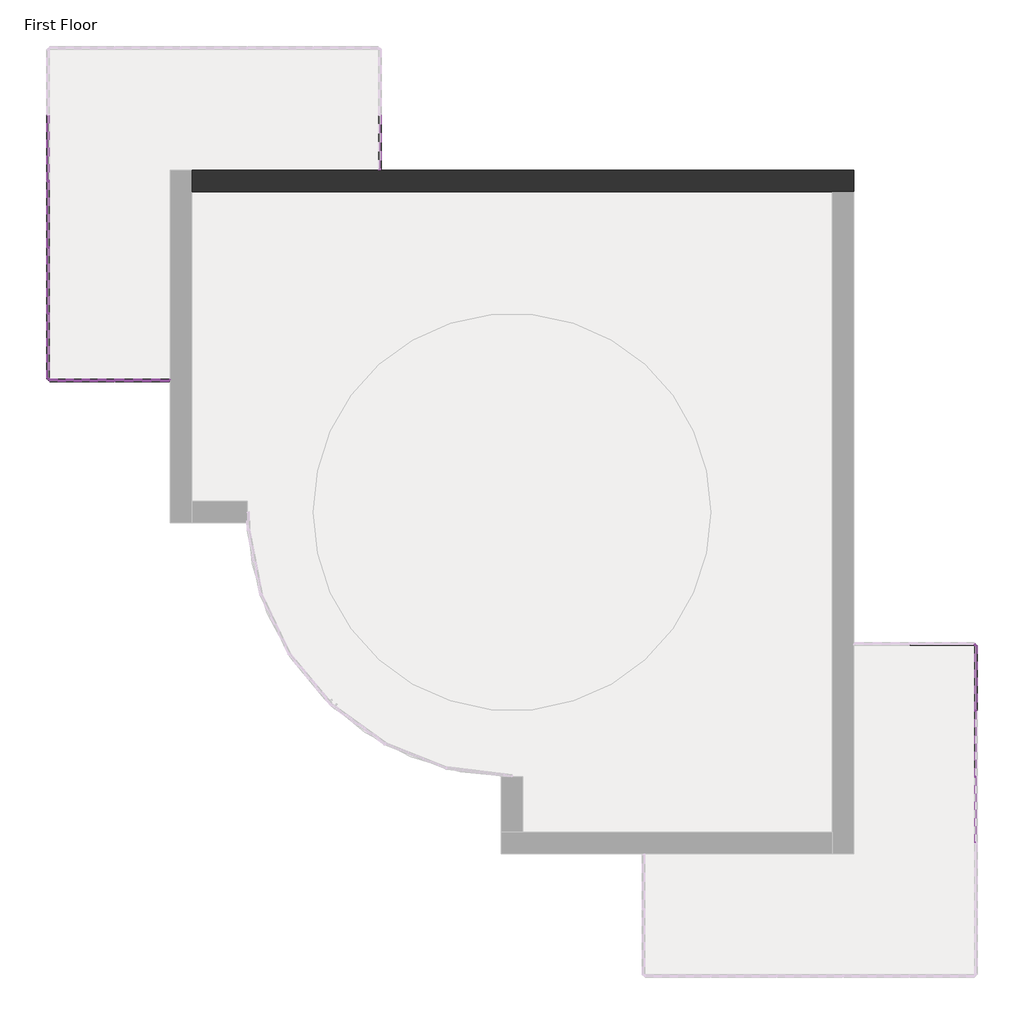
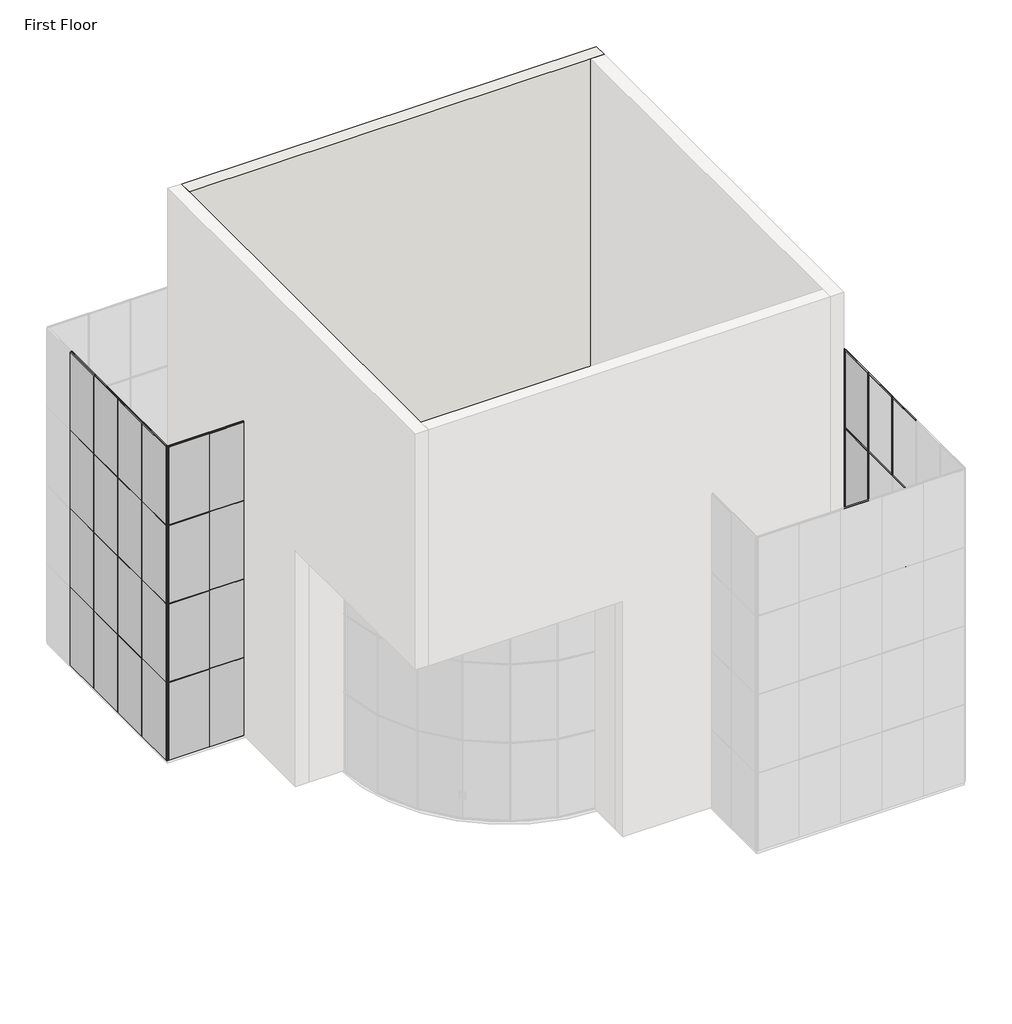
# One storey, part 3 of 4: 91 members, 32 plates, 1 wall.
"""IFC4 building model written with IfcOpenShell, lengths in millimetres."""

from ifc_helpers import new_model, si_unit, origin, place, context, project, spatial, faceted_brep, transform, mapped, element, save
from components import member_40ce1a5c, member_5e617a80, member_0d8d9af5, member_74941792, member_cbdb9076, member_7e523723, member_9fd3d903, member_6604d1e0, member_be0b070d, system_panel_glazed_9b7d687a, system_panel_glazed_3ccd4ad1, system_panel_glazed_9a901b4a, system_panel_glazed_ee91e337, system_panel_glazed_2d5e1d3d, system_panel_glazed_37964ea6, system_panel_glazed_a669fc9f, system_panel_glazed_51c864c8

model = new_model("IFC4")

# Units and contexts
model_context = context("Model", 3, world=origin())
ifc_project = project(units=[si_unit("LENGTHUNIT", "METRE", prefix="MILLI")], contexts=[model_context])

# Site, building, storey
site = spatial("IfcSite", under=ifc_project)
building = spatial("IfcBuilding", under=site)
storey = spatial("IfcBuildingStorey", under=building, Name="First Floor", Elevation=0.0)

# Members
placement = place(None, origin())
member_shape = member_40ce1a5c(model_context)
element("IfcMember", 1, ObjectType="Rectangular Mullion : 1\" Square", at=placement, inside=storey, context=model_context, shape_type="MappedRepresentation", body=[
    mapped(member_shape, transform((-10360.9806157, 2362.0139224, 6096.0), x_axis=(0.0, 0.0, 1.0), y_axis=(0.0, -1.0, 0.0), z_axis=(1.0, 0.0, 0.0))),
])
element("IfcMember", 2, ObjectType="Rectangular Mullion : 1\" Square", at=placement, inside=storey, context=model_context, shape_type="MappedRepresentation", body=[
    mapped(member_shape, transform((-10360.9806157, 2362.0139224, 9144.0), x_axis=(0.0, 0.0, 1.0), y_axis=(0.0, -1.0, 0.0), z_axis=(1.0, 0.0, 0.0))),
])
element("IfcMember", 3, ObjectType="Rectangular Mullion : 1\" Square", at=placement, inside=storey, context=model_context, shape_type="MappedRepresentation", body=[
    mapped(member_shape, transform((-10360.9806157, 2362.0139224, 3048.0), x_axis=(0.0, 0.0, 1.0), y_axis=(0.0, -1.0, 0.0), z_axis=(1.0, 0.0, 0.0))),
])
member_2_shape = member_5e617a80(model_context)
element("IfcMember", 4, ObjectType="Rectangular Mullion : 1\" Square", at=placement, inside=storey, context=model_context, shape_type="MappedRepresentation", body=[
    mapped(member_2_shape, transform((-11627.8056157, 2362.0139224, 9144.0), x_axis=(0.0, 0.0, 1.0), y_axis=(0.0, -1.0, 0.0), z_axis=(1.0, 0.0, 0.0))),
])
element("IfcMember", 5, ObjectType="Rectangular Mullion : 1\" Square", at=placement, inside=storey, context=model_context, shape_type="MappedRepresentation", body=[
    mapped(member_2_shape, transform((-11627.8056157, 2362.0139224, 6096.0), x_axis=(0.0, 0.0, 1.0), y_axis=(0.0, -1.0, 0.0), z_axis=(1.0, 0.0, 0.0))),
])
element("IfcMember", 6, ObjectType="Rectangular Mullion : 1\" Square", at=placement, inside=storey, context=model_context, shape_type="MappedRepresentation", body=[
    mapped(member_2_shape, transform((-11627.8056157, 2362.0139224, 3048.0), x_axis=(0.0, 0.0, 1.0), y_axis=(0.0, -1.0, 0.0), z_axis=(1.0, 0.0, 0.0))),
])
element("IfcMember", 7, ObjectType="Rectangular Mullion : 1\" Square", at=placement, inside=storey, context=model_context, shape_type="MappedRepresentation", body=[
    mapped(member_2_shape, transform((-13139.1056157, 2387.4139224, 9144.0), x_axis=(0.0, 0.0, 1.0), y_axis=(-1.0, 0.0, 0.0), z_axis=(0.0, -1.0, 0.0))),
])
element("IfcMember", 8, ObjectType="Rectangular Mullion : 1\" Square", at=placement, inside=storey, context=model_context, shape_type="MappedRepresentation", body=[
    mapped(member_2_shape, transform((-13139.1056157, 2387.4139224, 3048.0), x_axis=(0.0, 0.0, 1.0), y_axis=(-1.0, 0.0, 0.0), z_axis=(0.0, -1.0, 0.0))),
])
element("IfcMember", 9, ObjectType="Rectangular Mullion : 1\" Square", at=placement, inside=storey, context=model_context, shape_type="MappedRepresentation", body=[
    mapped(member_2_shape, transform((-13139.1056157, 2387.4139224, 6096.0), x_axis=(0.0, 0.0, 1.0), y_axis=(-1.0, 0.0, 0.0), z_axis=(0.0, -1.0, 0.0))),
])
element("IfcMember", 10, ObjectType="Rectangular Mullion : 1\" Square", at=placement, inside=storey, context=model_context, shape_type="MappedRepresentation", body=[
    mapped(member_2_shape, transform((8196.8943843, -3759.3860776, 3048.0), x_axis=(0.0, 0.0, 1.0), y_axis=(1.0, 0.0, 0.0), z_axis=(0.0, 1.0, 0.0))),
])
element("IfcMember", 11, ObjectType="Rectangular Mullion : 1\" Square", at=placement, inside=storey, context=model_context, shape_type="MappedRepresentation", body=[
    mapped(member_2_shape, transform((8196.8943843, -3759.3860776, 6096.0), x_axis=(0.0, 0.0, 1.0), y_axis=(1.0, 0.0, 0.0), z_axis=(0.0, 1.0, 0.0))),
])
element("IfcMember", 12, ObjectType="Rectangular Mullion : 1\" Square", at=placement, inside=storey, context=model_context, shape_type="MappedRepresentation", body=[
    mapped(member_2_shape, transform((8196.8943843, -3759.3860776, 9144.0), x_axis=(0.0, 0.0, 1.0), y_axis=(1.0, 0.0, 0.0), z_axis=(0.0, 1.0, 0.0))),
])
member_3_shape = member_0d8d9af5(model_context)
element("IfcMember", 13, ObjectType="Rectangular Mullion : 1\" Square", at=placement, inside=storey, context=model_context, shape_type="MappedRepresentation", body=[
    mapped(member_3_shape, transform((-11602.4056157, 2362.0139224, 0.0), x_axis=(0.0, 0.0, -1.0), y_axis=(0.0, -1.0, 0.0), z_axis=(-1.0, 0.0, 0.0))),
])
member_4_shape = member_74941792(model_context)
element("IfcMember", 14, ObjectType="Rectangular Mullion : 1\" Square", at=placement, inside=storey, context=model_context, shape_type="MappedRepresentation", body=[
    mapped(member_4_shape, transform((-11627.8056157, 2362.0139224, 12192.0), x_axis=(0.0, 0.0, 1.0), y_axis=(0.0, -1.0, 0.0), z_axis=(1.0, 0.0, 0.0))),
])
element("IfcMember", 15, ObjectType="Rectangular Mullion : 1\" Square", at=placement, inside=storey, context=model_context, shape_type="MappedRepresentation", body=[
    mapped(member_4_shape, transform((-13139.1056157, 2387.4139224, 12192.0), x_axis=(0.0, 0.0, 1.0), y_axis=(-1.0, 0.0, 0.0), z_axis=(0.0, -1.0, 0.0))),
])
element("IfcMember", 16, ObjectType="Rectangular Mullion : 1\" Square", at=placement, inside=storey, context=model_context, shape_type="MappedRepresentation", body=[
    mapped(member_4_shape, transform((8196.8943843, -3759.3860776, 12192.0), x_axis=(0.0, 0.0, 1.0), y_axis=(1.0, 0.0, 0.0), z_axis=(0.0, 1.0, 0.0))),
])
member_5_shape = member_cbdb9076(model_context)
element("IfcMember", 17, ObjectType="Rectangular Mullion : 1\" Square", at=placement, inside=storey, context=model_context, shape_type="MappedRepresentation", body=[
    mapped(member_5_shape, transform((-11615.1056157, 2362.0139224, 3048.0), x_axis=(1.0, 0.0, 0.0), y_axis=(0.0, -1.0, 0.0), z_axis=(0.0, 0.0, -1.0))),
])
element("IfcMember", 18, ObjectType="Rectangular Mullion : 1\" Square", at=placement, inside=storey, context=model_context, shape_type="MappedRepresentation", body=[
    mapped(member_5_shape, transform((-11615.1056157, 2362.0139224, 6096.0), x_axis=(1.0, 0.0, 0.0), y_axis=(0.0, -1.0, 0.0), z_axis=(0.0, 0.0, -1.0))),
])
element("IfcMember", 19, ObjectType="Rectangular Mullion : 1\" Square", at=placement, inside=storey, context=model_context, shape_type="MappedRepresentation", body=[
    mapped(member_5_shape, transform((-13139.1056157, 6934.0139224, 3048.0), x_axis=(0.0, -1.0, 0.0), y_axis=(-1.0, 0.0, 0.0), z_axis=(0.0, 0.0, -1.0))),
])
element("IfcMember", 20, ObjectType="Rectangular Mullion : 1\" Square", at=placement, inside=storey, context=model_context, shape_type="MappedRepresentation", body=[
    mapped(member_5_shape, transform((-13139.1056157, 6934.0139224, 6096.0), x_axis=(0.0, -1.0, 0.0), y_axis=(-1.0, 0.0, 0.0), z_axis=(0.0, 0.0, -1.0))),
])
element("IfcMember", 21, ObjectType="Rectangular Mullion : 1\" Square", at=placement, inside=storey, context=model_context, shape_type="MappedRepresentation", body=[
    mapped(member_5_shape, transform((-13139.1056157, 5410.0139224, 3048.0), x_axis=(0.0, -1.0, 0.0), y_axis=(-1.0, 0.0, 0.0), z_axis=(0.0, 0.0, -1.0))),
])
element("IfcMember", 22, ObjectType="Rectangular Mullion : 1\" Square", at=placement, inside=storey, context=model_context, shape_type="MappedRepresentation", body=[
    mapped(member_5_shape, transform((-13139.1056157, 5410.0139224, 6096.0), x_axis=(0.0, -1.0, 0.0), y_axis=(-1.0, 0.0, 0.0), z_axis=(0.0, 0.0, -1.0))),
])
element("IfcMember", 23, ObjectType="Rectangular Mullion : 1\" Square", at=placement, inside=storey, context=model_context, shape_type="MappedRepresentation", body=[
    mapped(member_5_shape, transform((-13139.1056157, 3886.0139224, 3048.0), x_axis=(0.0, -1.0, 0.0), y_axis=(-1.0, 0.0, 0.0), z_axis=(0.0, 0.0, -1.0))),
])
element("IfcMember", 24, ObjectType="Rectangular Mullion : 1\" Square", at=placement, inside=storey, context=model_context, shape_type="MappedRepresentation", body=[
    mapped(member_5_shape, transform((-13139.1056157, 3886.0139224, 6096.0), x_axis=(0.0, -1.0, 0.0), y_axis=(-1.0, 0.0, 0.0), z_axis=(0.0, 0.0, -1.0))),
])
element("IfcMember", 25, ObjectType="Rectangular Mullion : 1\" Square", at=placement, inside=storey, context=model_context, shape_type="MappedRepresentation", body=[
    mapped(member_5_shape, transform((8196.8943843, -5257.9860776, 3048.0), x_axis=(0.0, 1.0, 0.0), y_axis=(1.0, 0.0, 0.0), z_axis=(0.0, 0.0, -1.0))),
])
element("IfcMember", 26, ObjectType="Rectangular Mullion : 1\" Square", at=placement, inside=storey, context=model_context, shape_type="MappedRepresentation", body=[
    mapped(member_5_shape, transform((8196.8943843, -5257.9860776, 6096.0), x_axis=(0.0, 1.0, 0.0), y_axis=(1.0, 0.0, 0.0), z_axis=(0.0, 0.0, -1.0))),
])
element("IfcMember", 27, ObjectType="Rectangular Mullion : 1\" Square", at=placement, inside=storey, context=model_context, shape_type="MappedRepresentation", body=[
    mapped(member_5_shape, transform((-11615.1056157, 2362.0139224, 9144.0), x_axis=(1.0, 0.0, 0.0), y_axis=(0.0, -1.0, 0.0), z_axis=(0.0, 0.0, -1.0))),
])
element("IfcMember", 28, ObjectType="Rectangular Mullion : 1\" Square", at=placement, inside=storey, context=model_context, shape_type="MappedRepresentation", body=[
    mapped(member_5_shape, transform((-13139.1056157, 6934.0139224, 9144.0), x_axis=(0.0, -1.0, 0.0), y_axis=(-1.0, 0.0, 0.0), z_axis=(0.0, 0.0, -1.0))),
])
element("IfcMember", 29, ObjectType="Rectangular Mullion : 1\" Square", at=placement, inside=storey, context=model_context, shape_type="MappedRepresentation", body=[
    mapped(member_5_shape, transform((-13139.1056157, 5410.0139224, 9144.0), x_axis=(0.0, -1.0, 0.0), y_axis=(-1.0, 0.0, 0.0), z_axis=(0.0, 0.0, -1.0))),
])
element("IfcMember", 30, ObjectType="Rectangular Mullion : 1\" Square", at=placement, inside=storey, context=model_context, shape_type="MappedRepresentation", body=[
    mapped(member_5_shape, transform((-13139.1056157, 3886.0139224, 9144.0), x_axis=(0.0, -1.0, 0.0), y_axis=(-1.0, 0.0, 0.0), z_axis=(0.0, 0.0, -1.0))),
])
element("IfcMember", 31, ObjectType="Rectangular Mullion : 1\" Square", at=placement, inside=storey, context=model_context, shape_type="MappedRepresentation", body=[
    mapped(member_5_shape, transform((8196.8943843, -6781.9860776, 9144.0), x_axis=(0.0, 1.0, 0.0), y_axis=(1.0, 0.0, 0.0), z_axis=(0.0, 0.0, -1.0))),
])
element("IfcMember", 32, ObjectType="Rectangular Mullion : 1\" Square", at=placement, inside=storey, context=model_context, shape_type="MappedRepresentation", body=[
    mapped(member_5_shape, transform((8196.8943843, -5257.9860776, 9144.0), x_axis=(0.0, 1.0, 0.0), y_axis=(1.0, 0.0, 0.0), z_axis=(0.0, 0.0, -1.0))),
])
element("IfcMember", 33, ObjectType="Rectangular Mullion : 1\" Square", at=placement, inside=storey, context=model_context, shape_type="MappedRepresentation", body=[
    mapped(member_5_shape, transform((-11615.1056157, 2362.0139224, 0.0), x_axis=(1.0, 0.0, 0.0), y_axis=(0.0, -1.0, 0.0), z_axis=(0.0, 0.0, -1.0))),
])
element("IfcMember", 34, ObjectType="Rectangular Mullion : 1\" Square", at=placement, inside=storey, context=model_context, shape_type="MappedRepresentation", body=[
    mapped(member_5_shape, transform((-13139.1056157, 6934.0139224, 0.0), x_axis=(0.0, -1.0, 0.0), y_axis=(-1.0, 0.0, 0.0), z_axis=(0.0, 0.0, -1.0))),
])
element("IfcMember", 35, ObjectType="Rectangular Mullion : 1\" Square", at=placement, inside=storey, context=model_context, shape_type="MappedRepresentation", body=[
    mapped(member_5_shape, transform((-13139.1056157, 5410.0139224, 0.0), x_axis=(0.0, -1.0, 0.0), y_axis=(-1.0, 0.0, 0.0), z_axis=(0.0, 0.0, -1.0))),
])
element("IfcMember", 36, ObjectType="Rectangular Mullion : 1\" Square", at=placement, inside=storey, context=model_context, shape_type="MappedRepresentation", body=[
    mapped(member_5_shape, transform((-13139.1056157, 3886.0139224, 0.0), x_axis=(0.0, -1.0, 0.0), y_axis=(-1.0, 0.0, 0.0), z_axis=(0.0, 0.0, -1.0))),
])
element("IfcMember", 37, ObjectType="Rectangular Mullion : 1\" Square", at=placement, inside=storey, context=model_context, shape_type="MappedRepresentation", body=[
    mapped(member_5_shape, transform((8196.8943843, -6781.9860776, 0.0), x_axis=(0.0, 1.0, 0.0), y_axis=(1.0, 0.0, 0.0), z_axis=(0.0, 0.0, -1.0))),
])
element("IfcMember", 38, ObjectType="Rectangular Mullion : 1\" Square", at=placement, inside=storey, context=model_context, shape_type="MappedRepresentation", body=[
    mapped(member_5_shape, transform((8196.8943843, -5257.9860776, 0.0), x_axis=(0.0, 1.0, 0.0), y_axis=(1.0, 0.0, 0.0), z_axis=(0.0, 0.0, -1.0))),
])
element("IfcMember", 39, ObjectType="Rectangular Mullion : 1\" Square", at=placement, inside=storey, context=model_context, shape_type="MappedRepresentation", body=[
    mapped(member_4_shape, transform((-13113.7056157, 2362.0139224, 0.0), x_axis=(0.0, 0.0, -1.0), y_axis=(0.0, -1.0, 0.0), z_axis=(-1.0, 0.0, 0.0))),
])
element("IfcMember", 40, ObjectType="Rectangular Mullion : 1\" Square", at=placement, inside=storey, context=model_context, shape_type="MappedRepresentation", body=[
    mapped(member_4_shape, transform((-13139.1056157, 3873.3139224, 0.0), x_axis=(0.0, 0.0, -1.0), y_axis=(-1.0, 0.0, 0.0), z_axis=(0.0, 1.0, 0.0))),
])
element("IfcMember", 41, ObjectType="Rectangular Mullion : 1\" Square", at=placement, inside=storey, context=model_context, shape_type="MappedRepresentation", body=[
    mapped(member_4_shape, transform((8196.8943843, -5245.2860776, 0.0), x_axis=(0.0, 0.0, -1.0), y_axis=(1.0, 0.0, 0.0), z_axis=(0.0, -1.0, 0.0))),
])
element("IfcMember", 42, ObjectType="Rectangular Mullion : 1\" Square", at=placement, inside=storey, context=model_context, shape_type="MappedRepresentation", body=[
    mapped(member_4_shape, transform((8171.4943843, -3733.9860776, 0.0), x_axis=(0.0, 0.0, -1.0), y_axis=(0.0, 1.0, 0.0), z_axis=(1.0, 0.0, 0.0))),
])
element("IfcMember", 43, ObjectType="Rectangular Mullion : 1\" Square", at=placement, inside=storey, context=model_context, shape_type="MappedRepresentation", body=[
    mapped(member_3_shape, transform((-10360.9806157, 2362.0139224, 12192.0), x_axis=(0.0, 0.0, 1.0), y_axis=(0.0, -1.0, 0.0), z_axis=(1.0, 0.0, 0.0))),
])
member_6_shape = member_7e523723(model_context)
element("IfcMember", 44, ObjectType="Rectangular Mullion : 1\" Square", at=placement, inside=storey, context=model_context, shape_type="MappedRepresentation", body=[
    mapped(member_6_shape, transform((-13139.1056157, 2362.0139224, 12192.0), x_axis=(-1.0, 0.0, 0.0), y_axis=(0.0, -1.0, 0.0), z_axis=(0.0, 0.0, 1.0))),
])
element("IfcMember", 45, ObjectType="Rectangular Mullion : 1\" Square", at=placement, inside=storey, context=model_context, shape_type="MappedRepresentation", body=[
    mapped(member_6_shape, transform((8196.8943843, -3733.9860776, 12192.0), x_axis=(1.0, 0.0, 0.0), y_axis=(0.0, 1.0, 0.0), z_axis=(0.0, 0.0, 1.0))),
])
element("IfcMember", 46, ObjectType="Rectangular Mullion : 1\" Square", at=placement, inside=storey, context=model_context, shape_type="MappedRepresentation", body=[
    mapped(member_6_shape, transform((-5519.1056157, 7178.4889224, 12192.0), x_axis=(0.0, -1.0, 0.0), y_axis=(1.0, 0.0, 0.0), z_axis=(0.0, 0.0, 1.0))),
])
element("IfcMember", 47, ObjectType="Rectangular Mullion : 1\" Square", at=placement, inside=storey, context=model_context, shape_type="MappedRepresentation", body=[
    mapped(member_6_shape, transform((-10335.5806157, 2362.0139224, 3048.0), x_axis=(1.0, 0.0, 0.0), y_axis=(0.0, -1.0, 0.0), z_axis=(0.0, 0.0, -1.0))),
])
element("IfcMember", 48, ObjectType="Rectangular Mullion : 1\" Square", at=placement, inside=storey, context=model_context, shape_type="MappedRepresentation", body=[
    mapped(member_6_shape, transform((-10335.5806157, 2362.0139224, 6096.0), x_axis=(1.0, 0.0, 0.0), y_axis=(0.0, -1.0, 0.0), z_axis=(0.0, 0.0, -1.0))),
])
element("IfcMember", 49, ObjectType="Rectangular Mullion : 1\" Square", at=placement, inside=storey, context=model_context, shape_type="MappedRepresentation", body=[
    mapped(member_6_shape, transform((-13139.1056157, 2362.0139224, 3048.0), x_axis=(0.0, -1.0, 0.0), y_axis=(-1.0, 0.0, 0.0), z_axis=(0.0, 0.0, -1.0))),
])
element("IfcMember", 50, ObjectType="Rectangular Mullion : 1\" Square", at=placement, inside=storey, context=model_context, shape_type="MappedRepresentation", body=[
    mapped(member_6_shape, transform((-13139.1056157, 2362.0139224, 6096.0), x_axis=(0.0, -1.0, 0.0), y_axis=(-1.0, 0.0, 0.0), z_axis=(0.0, 0.0, -1.0))),
])
element("IfcMember", 51, ObjectType="Rectangular Mullion : 1\" Square", at=placement, inside=storey, context=model_context, shape_type="MappedRepresentation", body=[
    mapped(member_6_shape, transform((8196.8943843, -3733.9860776, 3048.0), x_axis=(0.0, 1.0, 0.0), y_axis=(1.0, 0.0, 0.0), z_axis=(0.0, 0.0, -1.0))),
])
element("IfcMember", 52, ObjectType="Rectangular Mullion : 1\" Square", at=placement, inside=storey, context=model_context, shape_type="MappedRepresentation", body=[
    mapped(member_6_shape, transform((8196.8943843, -3733.9860776, 6096.0), x_axis=(0.0, 1.0, 0.0), y_axis=(1.0, 0.0, 0.0), z_axis=(0.0, 0.0, -1.0))),
])
element("IfcMember", 53, ObjectType="Rectangular Mullion : 1\" Square", at=placement, inside=storey, context=model_context, shape_type="MappedRepresentation", body=[
    mapped(member_6_shape, transform((-10335.5806157, 2362.0139224, 9144.0), x_axis=(1.0, 0.0, 0.0), y_axis=(0.0, -1.0, 0.0), z_axis=(0.0, 0.0, -1.0))),
])
element("IfcMember", 54, ObjectType="Rectangular Mullion : 1\" Square", at=placement, inside=storey, context=model_context, shape_type="MappedRepresentation", body=[
    mapped(member_6_shape, transform((-13139.1056157, 2362.0139224, 9144.0), x_axis=(0.0, -1.0, 0.0), y_axis=(-1.0, 0.0, 0.0), z_axis=(0.0, 0.0, -1.0))),
])
element("IfcMember", 55, ObjectType="Rectangular Mullion : 1\" Square", at=placement, inside=storey, context=model_context, shape_type="MappedRepresentation", body=[
    mapped(member_6_shape, transform((8196.8943843, -3733.9860776, 9144.0), x_axis=(0.0, 1.0, 0.0), y_axis=(1.0, 0.0, 0.0), z_axis=(0.0, 0.0, -1.0))),
])
element("IfcMember", 56, ObjectType="Rectangular Mullion : 1\" Square", at=placement, inside=storey, context=model_context, shape_type="MappedRepresentation", body=[
    mapped(member_6_shape, transform((-13139.1056157, 2362.0139224, 3048.0), x_axis=(-1.0, 0.0, 0.0), y_axis=(0.0, -1.0, 0.0), z_axis=(0.0, 0.0, 1.0))),
])
element("IfcMember", 57, ObjectType="Rectangular Mullion : 1\" Square", at=placement, inside=storey, context=model_context, shape_type="MappedRepresentation", body=[
    mapped(member_6_shape, transform((8196.8943843, -3733.9860776, 3048.0), x_axis=(1.0, 0.0, 0.0), y_axis=(0.0, 1.0, 0.0), z_axis=(0.0, 0.0, 1.0))),
])
element("IfcMember", 58, ObjectType="Rectangular Mullion : 1\" Square", at=placement, inside=storey, context=model_context, shape_type="MappedRepresentation", body=[
    mapped(member_6_shape, transform((-5519.1056157, 7178.4889224, 3048.0), x_axis=(0.0, -1.0, 0.0), y_axis=(1.0, 0.0, 0.0), z_axis=(0.0, 0.0, 1.0))),
])
element("IfcMember", 59, ObjectType="Rectangular Mullion : 1\" Square", at=placement, inside=storey, context=model_context, shape_type="MappedRepresentation", body=[
    mapped(member_6_shape, transform((-13139.1056157, 2362.0139224, 6096.0), x_axis=(-1.0, 0.0, 0.0), y_axis=(0.0, -1.0, 0.0), z_axis=(0.0, 0.0, 1.0))),
])
element("IfcMember", 60, ObjectType="Rectangular Mullion : 1\" Square", at=placement, inside=storey, context=model_context, shape_type="MappedRepresentation", body=[
    mapped(member_6_shape, transform((-13139.1056157, 2362.0139224, 9144.0), x_axis=(-1.0, 0.0, 0.0), y_axis=(0.0, -1.0, 0.0), z_axis=(0.0, 0.0, 1.0))),
])
element("IfcMember", 61, ObjectType="Rectangular Mullion : 1\" Square", at=placement, inside=storey, context=model_context, shape_type="MappedRepresentation", body=[
    mapped(member_6_shape, transform((8196.8943843, -3733.9860776, 6096.0), x_axis=(1.0, 0.0, 0.0), y_axis=(0.0, 1.0, 0.0), z_axis=(0.0, 0.0, 1.0))),
])
element("IfcMember", 62, ObjectType="Rectangular Mullion : 1\" Square", at=placement, inside=storey, context=model_context, shape_type="MappedRepresentation", body=[
    mapped(member_6_shape, transform((8196.8943843, -3733.9860776, 9144.0), x_axis=(1.0, 0.0, 0.0), y_axis=(0.0, 1.0, 0.0), z_axis=(0.0, 0.0, 1.0))),
])
element("IfcMember", 63, ObjectType="Rectangular Mullion : 1\" Square", at=placement, inside=storey, context=model_context, shape_type="MappedRepresentation", body=[
    mapped(member_6_shape, transform((-5519.1056157, 7178.4889224, 6096.0), x_axis=(0.0, -1.0, 0.0), y_axis=(1.0, 0.0, 0.0), z_axis=(0.0, 0.0, 1.0))),
])
element("IfcMember", 64, ObjectType="Rectangular Mullion : 1\" Square", at=placement, inside=storey, context=model_context, shape_type="MappedRepresentation", body=[
    mapped(member_6_shape, transform((-5519.1056157, 7178.4889224, 9144.0), x_axis=(0.0, -1.0, 0.0), y_axis=(1.0, 0.0, 0.0), z_axis=(0.0, 0.0, 1.0))),
])
element("IfcMember", 65, ObjectType="Rectangular Mullion : 1\" Square", at=placement, inside=storey, context=model_context, shape_type="MappedRepresentation", body=[
    mapped(member_6_shape, transform((-10335.5806157, 2362.0139224, 0.0), x_axis=(1.0, 0.0, 0.0), y_axis=(0.0, -1.0, 0.0), z_axis=(0.0, 0.0, -1.0))),
])
element("IfcMember", 66, ObjectType="Rectangular Mullion : 1\" Square", at=placement, inside=storey, context=model_context, shape_type="MappedRepresentation", body=[
    mapped(member_6_shape, transform((-13139.1056157, 2362.0139224, 0.0), x_axis=(0.0, -1.0, 0.0), y_axis=(-1.0, 0.0, 0.0), z_axis=(0.0, 0.0, -1.0))),
])
element("IfcMember", 67, ObjectType="Rectangular Mullion : 1\" Square", at=placement, inside=storey, context=model_context, shape_type="MappedRepresentation", body=[
    mapped(member_6_shape, transform((8196.8943843, -3733.9860776, 0.0), x_axis=(0.0, 1.0, 0.0), y_axis=(1.0, 0.0, 0.0), z_axis=(0.0, 0.0, -1.0))),
])
member_7_shape = member_9fd3d903(model_context)
element("IfcMember", 68, ObjectType="Rectangular Mullion : 1\" Square", at=placement, inside=storey, context=model_context, shape_type="MappedRepresentation", body=[
    mapped(member_7_shape, transform((-13139.1056157, 6946.7139224, 3048.0), x_axis=(0.0, 0.0, 1.0), y_axis=(-1.0, 0.0, 0.0), z_axis=(0.0, -1.0, 0.0))),
])
element("IfcMember", 69, ObjectType="Rectangular Mullion : 1\" Square", at=placement, inside=storey, context=model_context, shape_type="MappedRepresentation", body=[
    mapped(member_7_shape, transform((-13139.1056157, 5422.7139224, 3048.0), x_axis=(0.0, 0.0, 1.0), y_axis=(-1.0, 0.0, 0.0), z_axis=(0.0, -1.0, 0.0))),
])
element("IfcMember", 70, ObjectType="Rectangular Mullion : 1\" Square", at=placement, inside=storey, context=model_context, shape_type="MappedRepresentation", body=[
    mapped(member_7_shape, transform((-13139.1056157, 3898.7139224, 3048.0), x_axis=(0.0, 0.0, 1.0), y_axis=(-1.0, 0.0, 0.0), z_axis=(0.0, -1.0, 0.0))),
])
element("IfcMember", 71, ObjectType="Rectangular Mullion : 1\" Square", at=placement, inside=storey, context=model_context, shape_type="MappedRepresentation", body=[
    mapped(member_7_shape, transform((-13139.1056157, 6946.7139224, 6096.0), x_axis=(0.0, 0.0, 1.0), y_axis=(-1.0, 0.0, 0.0), z_axis=(0.0, -1.0, 0.0))),
])
element("IfcMember", 72, ObjectType="Rectangular Mullion : 1\" Square", at=placement, inside=storey, context=model_context, shape_type="MappedRepresentation", body=[
    mapped(member_7_shape, transform((-13139.1056157, 5422.7139224, 6096.0), x_axis=(0.0, 0.0, 1.0), y_axis=(-1.0, 0.0, 0.0), z_axis=(0.0, -1.0, 0.0))),
])
element("IfcMember", 73, ObjectType="Rectangular Mullion : 1\" Square", at=placement, inside=storey, context=model_context, shape_type="MappedRepresentation", body=[
    mapped(member_7_shape, transform((-13139.1056157, 3898.7139224, 6096.0), x_axis=(0.0, 0.0, 1.0), y_axis=(-1.0, 0.0, 0.0), z_axis=(0.0, -1.0, 0.0))),
])
element("IfcMember", 74, ObjectType="Rectangular Mullion : 1\" Square", at=placement, inside=storey, context=model_context, shape_type="MappedRepresentation", body=[
    mapped(member_7_shape, transform((-13139.1056157, 6946.7139224, 9144.0), x_axis=(0.0, 0.0, 1.0), y_axis=(-1.0, 0.0, 0.0), z_axis=(0.0, -1.0, 0.0))),
])
element("IfcMember", 75, ObjectType="Rectangular Mullion : 1\" Square", at=placement, inside=storey, context=model_context, shape_type="MappedRepresentation", body=[
    mapped(member_7_shape, transform((-13139.1056157, 5422.7139224, 9144.0), x_axis=(0.0, 0.0, 1.0), y_axis=(-1.0, 0.0, 0.0), z_axis=(0.0, -1.0, 0.0))),
])
element("IfcMember", 76, ObjectType="Rectangular Mullion : 1\" Square", at=placement, inside=storey, context=model_context, shape_type="MappedRepresentation", body=[
    mapped(member_7_shape, transform((-13139.1056157, 3898.7139224, 9144.0), x_axis=(0.0, 0.0, 1.0), y_axis=(-1.0, 0.0, 0.0), z_axis=(0.0, -1.0, 0.0))),
])
element("IfcMember", 77, ObjectType="Rectangular Mullion : 1\" Square", at=placement, inside=storey, context=model_context, shape_type="MappedRepresentation", body=[
    mapped(member_7_shape, transform((8196.8943843, -6794.6860776, 3048.0), x_axis=(0.0, 0.0, 1.0), y_axis=(1.0, 0.0, 0.0), z_axis=(0.0, 1.0, 0.0))),
])
element("IfcMember", 78, ObjectType="Rectangular Mullion : 1\" Square", at=placement, inside=storey, context=model_context, shape_type="MappedRepresentation", body=[
    mapped(member_7_shape, transform((8196.8943843, -5270.6860776, 3048.0), x_axis=(0.0, 0.0, 1.0), y_axis=(1.0, 0.0, 0.0), z_axis=(0.0, 1.0, 0.0))),
])
element("IfcMember", 79, ObjectType="Rectangular Mullion : 1\" Square", at=placement, inside=storey, context=model_context, shape_type="MappedRepresentation", body=[
    mapped(member_7_shape, transform((8196.8943843, -6794.6860776, 6096.0), x_axis=(0.0, 0.0, 1.0), y_axis=(1.0, 0.0, 0.0), z_axis=(0.0, 1.0, 0.0))),
])
element("IfcMember", 80, ObjectType="Rectangular Mullion : 1\" Square", at=placement, inside=storey, context=model_context, shape_type="MappedRepresentation", body=[
    mapped(member_7_shape, transform((8196.8943843, -5270.6860776, 6096.0), x_axis=(0.0, 0.0, 1.0), y_axis=(1.0, 0.0, 0.0), z_axis=(0.0, 1.0, 0.0))),
])
element("IfcMember", 81, ObjectType="Rectangular Mullion : 1\" Square", at=placement, inside=storey, context=model_context, shape_type="MappedRepresentation", body=[
    mapped(member_7_shape, transform((8196.8943843, -6794.6860776, 9144.0), x_axis=(0.0, 0.0, 1.0), y_axis=(1.0, 0.0, 0.0), z_axis=(0.0, 1.0, 0.0))),
])
element("IfcMember", 82, ObjectType="Rectangular Mullion : 1\" Square", at=placement, inside=storey, context=model_context, shape_type="MappedRepresentation", body=[
    mapped(member_7_shape, transform((8196.8943843, -5270.6860776, 9144.0), x_axis=(0.0, 0.0, 1.0), y_axis=(1.0, 0.0, 0.0), z_axis=(0.0, 1.0, 0.0))),
])
member_8_shape = member_6604d1e0(model_context)
element("IfcMember", 83, ObjectType="Rectangular Mullion : 1\" Square", at=placement, inside=storey, context=model_context, shape_type="MappedRepresentation", body=[
    mapped(member_8_shape, transform((-13139.1056157, 3898.7139224, 12192.0), x_axis=(0.0, 0.0, 1.0), y_axis=(-1.0, 0.0, 0.0), z_axis=(0.0, -1.0, 0.0))),
])
element("IfcMember", 84, ObjectType="Rectangular Mullion : 1\" Square", at=placement, inside=storey, context=model_context, shape_type="MappedRepresentation", body=[
    mapped(member_8_shape, transform((-13139.1056157, 6946.7139224, 12192.0), x_axis=(0.0, 0.0, 1.0), y_axis=(-1.0, 0.0, 0.0), z_axis=(0.0, -1.0, 0.0))),
])
element("IfcMember", 85, ObjectType="Rectangular Mullion : 1\" Square", at=placement, inside=storey, context=model_context, shape_type="MappedRepresentation", body=[
    mapped(member_8_shape, transform((-13139.1056157, 5422.7139224, 12192.0), x_axis=(0.0, 0.0, 1.0), y_axis=(-1.0, 0.0, 0.0), z_axis=(0.0, -1.0, 0.0))),
])
element("IfcMember", 86, ObjectType="Rectangular Mullion : 1\" Square", at=placement, inside=storey, context=model_context, shape_type="MappedRepresentation", body=[
    mapped(member_8_shape, transform((8196.8943843, -6794.6860776, 12192.0), x_axis=(0.0, 0.0, 1.0), y_axis=(1.0, 0.0, 0.0), z_axis=(0.0, 1.0, 0.0))),
])
element("IfcMember", 87, ObjectType="Rectangular Mullion : 1\" Square", at=placement, inside=storey, context=model_context, shape_type="MappedRepresentation", body=[
    mapped(member_8_shape, transform((8196.8943843, -5270.6860776, 12192.0), x_axis=(0.0, 0.0, 1.0), y_axis=(1.0, 0.0, 0.0), z_axis=(0.0, 1.0, 0.0))),
])
element("IfcMember", 88, ObjectType="Rectangular Mullion : 1\" Square", at=placement, inside=storey, context=model_context, shape_type="MappedRepresentation", body=[
    mapped(member_8_shape, transform((-13139.1056157, 6921.3139224, 0.0), x_axis=(0.0, 0.0, -1.0), y_axis=(-1.0, 0.0, 0.0), z_axis=(0.0, 1.0, 0.0))),
])
element("IfcMember", 89, ObjectType="Rectangular Mullion : 1\" Square", at=placement, inside=storey, context=model_context, shape_type="MappedRepresentation", body=[
    mapped(member_8_shape, transform((-13139.1056157, 5397.3139224, 0.0), x_axis=(0.0, 0.0, -1.0), y_axis=(-1.0, 0.0, 0.0), z_axis=(0.0, 1.0, 0.0))),
])
element("IfcMember", 90, ObjectType="Rectangular Mullion : 1\" Square", at=placement, inside=storey, context=model_context, shape_type="MappedRepresentation", body=[
    mapped(member_8_shape, transform((8196.8943843, -6769.2860776, 0.0), x_axis=(0.0, 0.0, -1.0), y_axis=(1.0, 0.0, 0.0), z_axis=(0.0, -1.0, 0.0))),
])
member_9_shape = member_be0b070d(model_context)
element("IfcMember", 91, ObjectType="Rectangular Mullion : 1\" Square", at=placement, inside=storey, context=model_context, shape_type="MappedRepresentation", body=[
    mapped(member_9_shape, transform((-5519.1056157, 7203.8889224, 0.0), x_axis=(0.0, 0.0, -1.0), y_axis=(1.0, 0.0, 0.0), z_axis=(0.0, -1.0, 0.0))),
])

# Plates
system_panel_glazed_shape = system_panel_glazed_9b7d687a(model_context)
element("IfcPlate", 92, ObjectType="System Panel : Glazed", at=placement, inside=storey, context=model_context, shape_type="MappedRepresentation", body=[
    mapped(system_panel_glazed_shape, transform((-13139.1056157, 3130.3639224, 25.4), x_axis=(0.0, -1.0, 0.0), y_axis=(1.0, 0.0, 0.0), z_axis=(0.0, 0.0, 1.0))),
])
element("IfcPlate", 93, ObjectType="System Panel : Glazed", at=placement, inside=storey, context=model_context, shape_type="MappedRepresentation", body=[
    mapped(system_panel_glazed_shape, transform((-13139.1056157, 3130.3639224, 9156.7), x_axis=(0.0, -1.0, 0.0), y_axis=(1.0, 0.0, 0.0), z_axis=(0.0, 0.0, 1.0))),
])
element("IfcPlate", 94, ObjectType="System Panel : Glazed", at=placement, inside=storey, context=model_context, shape_type="MappedRepresentation", body=[
    mapped(system_panel_glazed_shape, transform((-12370.7556157, 2362.0139224, 25.4), x_axis=(1.0, 0.0, 0.0), y_axis=(0.0, 1.0, 0.0), z_axis=(0.0, 0.0, 1.0))),
])
element("IfcPlate", 95, ObjectType="System Panel : Glazed", at=placement, inside=storey, context=model_context, shape_type="MappedRepresentation", body=[
    mapped(system_panel_glazed_shape, transform((-12370.7556157, 2362.0139224, 9156.7), x_axis=(1.0, 0.0, 0.0), y_axis=(0.0, 1.0, 0.0), z_axis=(0.0, 0.0, 1.0))),
])
element("IfcPlate", 96, ObjectType="System Panel : Glazed", at=placement, inside=storey, context=model_context, shape_type="MappedRepresentation", body=[
    mapped(system_panel_glazed_shape, transform((8196.8943843, -4502.3360776, 25.4), x_axis=(0.0, 1.0, 0.0), y_axis=(-1.0, 0.0, 0.0), z_axis=(0.0, 0.0, 1.0))),
])
element("IfcPlate", 97, ObjectType="System Panel : Glazed", at=placement, inside=storey, context=model_context, shape_type="MappedRepresentation", body=[
    mapped(system_panel_glazed_shape, transform((8196.8943843, -4502.3360776, 9156.7), x_axis=(0.0, 1.0, 0.0), y_axis=(-1.0, 0.0, 0.0), z_axis=(0.0, 0.0, 1.0))),
])
system_panel_glazed_2_shape = system_panel_glazed_3ccd4ad1(model_context)
element("IfcPlate", 98, ObjectType="System Panel : Glazed", at=placement, inside=storey, context=model_context, shape_type="MappedRepresentation", body=[
    mapped(system_panel_glazed_2_shape, transform((-10981.6931157, 2362.0139224, 25.4), x_axis=(1.0, 0.0, 0.0), y_axis=(0.0, 1.0, 0.0), z_axis=(0.0, 0.0, 1.0))),
])
element("IfcPlate", 99, ObjectType="System Panel : Glazed", at=placement, inside=storey, context=model_context, shape_type="MappedRepresentation", body=[
    mapped(system_panel_glazed_2_shape, transform((-10981.6931157, 2362.0139224, 9156.7), x_axis=(1.0, 0.0, 0.0), y_axis=(0.0, 1.0, 0.0), z_axis=(0.0, 0.0, 1.0))),
])
system_panel_glazed_3_shape = system_panel_glazed_9a901b4a(model_context)
element("IfcPlate", 100, ObjectType="System Panel : Glazed", at=placement, inside=storey, context=model_context, shape_type="MappedRepresentation", body=[
    mapped(system_panel_glazed_3_shape, transform((-13139.1056157, 3130.3639224, 3060.7), x_axis=(0.0, -1.0, 0.0), y_axis=(1.0, 0.0, 0.0), z_axis=(0.0, 0.0, 1.0))),
])
element("IfcPlate", 101, ObjectType="System Panel : Glazed", at=placement, inside=storey, context=model_context, shape_type="MappedRepresentation", body=[
    mapped(system_panel_glazed_3_shape, transform((-13139.1056157, 3130.3639224, 6108.7), x_axis=(0.0, -1.0, 0.0), y_axis=(1.0, 0.0, 0.0), z_axis=(0.0, 0.0, 1.0))),
])
element("IfcPlate", 102, ObjectType="System Panel : Glazed", at=placement, inside=storey, context=model_context, shape_type="MappedRepresentation", body=[
    mapped(system_panel_glazed_3_shape, transform((-12370.7556157, 2362.0139224, 3060.7), x_axis=(1.0, 0.0, 0.0), y_axis=(0.0, 1.0, 0.0), z_axis=(0.0, 0.0, 1.0))),
])
element("IfcPlate", 103, ObjectType="System Panel : Glazed", at=placement, inside=storey, context=model_context, shape_type="MappedRepresentation", body=[
    mapped(system_panel_glazed_3_shape, transform((-12370.7556157, 2362.0139224, 6108.7), x_axis=(1.0, 0.0, 0.0), y_axis=(0.0, 1.0, 0.0), z_axis=(0.0, 0.0, 1.0))),
])
element("IfcPlate", 104, ObjectType="System Panel : Glazed", at=placement, inside=storey, context=model_context, shape_type="MappedRepresentation", body=[
    mapped(system_panel_glazed_3_shape, transform((8196.8943843, -4502.3360776, 3060.7), x_axis=(0.0, 1.0, 0.0), y_axis=(-1.0, 0.0, 0.0), z_axis=(0.0, 0.0, 1.0))),
])
element("IfcPlate", 105, ObjectType="System Panel : Glazed", at=placement, inside=storey, context=model_context, shape_type="MappedRepresentation", body=[
    mapped(system_panel_glazed_3_shape, transform((8196.8943843, -4502.3360776, 6108.7), x_axis=(0.0, 1.0, 0.0), y_axis=(-1.0, 0.0, 0.0), z_axis=(0.0, 0.0, 1.0))),
])
system_panel_glazed_4_shape = system_panel_glazed_ee91e337(model_context)
element("IfcPlate", 106, ObjectType="System Panel : Glazed", at=placement, inside=storey, context=model_context, shape_type="MappedRepresentation", body=[
    mapped(system_panel_glazed_4_shape, transform((-10981.6931157, 2362.0139224, 3060.7), x_axis=(1.0, 0.0, 0.0), y_axis=(0.0, 1.0, 0.0), z_axis=(0.0, 0.0, 1.0))),
])
element("IfcPlate", 107, ObjectType="System Panel : Glazed", at=placement, inside=storey, context=model_context, shape_type="MappedRepresentation", body=[
    mapped(system_panel_glazed_4_shape, transform((-10981.6931157, 2362.0139224, 6108.7), x_axis=(1.0, 0.0, 0.0), y_axis=(0.0, 1.0, 0.0), z_axis=(0.0, 0.0, 1.0))),
])
system_panel_glazed_5_shape = system_panel_glazed_2d5e1d3d(model_context)
element("IfcPlate", 108, ObjectType="System Panel : Glazed", at=placement, inside=storey, context=model_context, shape_type="MappedRepresentation", body=[
    mapped(system_panel_glazed_5_shape, transform((-13139.1056157, 7696.0139224, 25.4), x_axis=(0.0, -1.0, 0.0), y_axis=(1.0, 0.0, 0.0), z_axis=(0.0, 0.0, 1.0))),
])
element("IfcPlate", 109, ObjectType="System Panel : Glazed", at=placement, inside=storey, context=model_context, shape_type="MappedRepresentation", body=[
    mapped(system_panel_glazed_5_shape, transform((-13139.1056157, 6172.0139224, 25.4), x_axis=(0.0, -1.0, 0.0), y_axis=(1.0, 0.0, 0.0), z_axis=(0.0, 0.0, 1.0))),
])
element("IfcPlate", 110, ObjectType="System Panel : Glazed", at=placement, inside=storey, context=model_context, shape_type="MappedRepresentation", body=[
    mapped(system_panel_glazed_5_shape, transform((-13139.1056157, 4648.0139224, 25.4), x_axis=(0.0, -1.0, 0.0), y_axis=(1.0, 0.0, 0.0), z_axis=(0.0, 0.0, 1.0))),
])
element("IfcPlate", 111, ObjectType="System Panel : Glazed", at=placement, inside=storey, context=model_context, shape_type="MappedRepresentation", body=[
    mapped(system_panel_glazed_5_shape, transform((-13139.1056157, 7696.0139224, 9156.7), x_axis=(0.0, -1.0, 0.0), y_axis=(1.0, 0.0, 0.0), z_axis=(0.0, 0.0, 1.0))),
])
element("IfcPlate", 112, ObjectType="System Panel : Glazed", at=placement, inside=storey, context=model_context, shape_type="MappedRepresentation", body=[
    mapped(system_panel_glazed_5_shape, transform((-13139.1056157, 6172.0139224, 9156.7), x_axis=(0.0, -1.0, 0.0), y_axis=(1.0, 0.0, 0.0), z_axis=(0.0, 0.0, 1.0))),
])
element("IfcPlate", 113, ObjectType="System Panel : Glazed", at=placement, inside=storey, context=model_context, shape_type="MappedRepresentation", body=[
    mapped(system_panel_glazed_5_shape, transform((-13139.1056157, 4648.0139224, 9156.7), x_axis=(0.0, -1.0, 0.0), y_axis=(1.0, 0.0, 0.0), z_axis=(0.0, 0.0, 1.0))),
])
system_panel_glazed_6_shape = system_panel_glazed_37964ea6(model_context)
element("IfcPlate", 114, ObjectType="System Panel : Glazed", at=placement, inside=storey, context=model_context, shape_type="MappedRepresentation", body=[
    mapped(system_panel_glazed_6_shape, transform((-13139.1056157, 7696.0139224, 3060.7), x_axis=(0.0, -1.0, 0.0), y_axis=(1.0, 0.0, 0.0), z_axis=(0.0, 0.0, 1.0))),
])
element("IfcPlate", 115, ObjectType="System Panel : Glazed", at=placement, inside=storey, context=model_context, shape_type="MappedRepresentation", body=[
    mapped(system_panel_glazed_6_shape, transform((-13139.1056157, 6172.0139224, 3060.7), x_axis=(0.0, -1.0, 0.0), y_axis=(1.0, 0.0, 0.0), z_axis=(0.0, 0.0, 1.0))),
])
element("IfcPlate", 116, ObjectType="System Panel : Glazed", at=placement, inside=storey, context=model_context, shape_type="MappedRepresentation", body=[
    mapped(system_panel_glazed_6_shape, transform((-13139.1056157, 4648.0139224, 3060.7), x_axis=(0.0, -1.0, 0.0), y_axis=(1.0, 0.0, 0.0), z_axis=(0.0, 0.0, 1.0))),
])
element("IfcPlate", 117, ObjectType="System Panel : Glazed", at=placement, inside=storey, context=model_context, shape_type="MappedRepresentation", body=[
    mapped(system_panel_glazed_6_shape, transform((-13139.1056157, 7696.0139224, 6108.7), x_axis=(0.0, -1.0, 0.0), y_axis=(1.0, 0.0, 0.0), z_axis=(0.0, 0.0, 1.0))),
])
element("IfcPlate", 118, ObjectType="System Panel : Glazed", at=placement, inside=storey, context=model_context, shape_type="MappedRepresentation", body=[
    mapped(system_panel_glazed_6_shape, transform((-13139.1056157, 6172.0139224, 6108.7), x_axis=(0.0, -1.0, 0.0), y_axis=(1.0, 0.0, 0.0), z_axis=(0.0, 0.0, 1.0))),
])
element("IfcPlate", 119, ObjectType="System Panel : Glazed", at=placement, inside=storey, context=model_context, shape_type="MappedRepresentation", body=[
    mapped(system_panel_glazed_6_shape, transform((-13139.1056157, 4648.0139224, 6108.7), x_axis=(0.0, -1.0, 0.0), y_axis=(1.0, 0.0, 0.0), z_axis=(0.0, 0.0, 1.0))),
])
system_panel_glazed_7_shape = system_panel_glazed_a669fc9f(model_context)
element("IfcPlate", 120, ObjectType="System Panel : Glazed", at=placement, inside=storey, context=model_context, shape_type="MappedRepresentation", body=[
    mapped(system_panel_glazed_7_shape, transform((-5519.1056157, 7823.0139224, 25.4), x_axis=(0.0, 1.0, 0.0), y_axis=(-1.0, 0.0, 0.0), z_axis=(0.0, 0.0, 1.0))),
])
element("IfcPlate", 121, ObjectType="System Panel : Glazed", at=placement, inside=storey, context=model_context, shape_type="MappedRepresentation", body=[
    mapped(system_panel_glazed_7_shape, transform((-5519.1056157, 7823.0139224, 9156.7), x_axis=(0.0, 1.0, 0.0), y_axis=(-1.0, 0.0, 0.0), z_axis=(0.0, 0.0, 1.0))),
])
system_panel_glazed_8_shape = system_panel_glazed_51c864c8(model_context)
element("IfcPlate", 122, ObjectType="System Panel : Glazed", at=placement, inside=storey, context=model_context, shape_type="MappedRepresentation", body=[
    mapped(system_panel_glazed_8_shape, transform((-5519.1056157, 7823.0139224, 3060.7), x_axis=(0.0, 1.0, 0.0), y_axis=(-1.0, 0.0, 0.0), z_axis=(0.0, 0.0, 1.0))),
])
element("IfcPlate", 123, ObjectType="System Panel : Glazed", at=placement, inside=storey, context=model_context, shape_type="MappedRepresentation", body=[
    mapped(system_panel_glazed_8_shape, transform((-5519.1056157, 7823.0139224, 6108.7), x_axis=(0.0, 1.0, 0.0), y_axis=(-1.0, 0.0, 0.0), z_axis=(0.0, 0.0, 1.0))),
])

# Wall
element("IfcWall", 124, ObjectType="Exterior - Brick on CMU", at=placement, inside=storey, context=model_context, shape_type="Brep", body=[
    faceted_brep([(5393.3693843, 7178.4889224, 0.0), (-9840.2806157, 7178.4889224, 0.0), (-9840.2806157, 7178.4889224, 18288.0), (5393.3693843, 7178.4889224, 18288.0), (5393.3693843, 6683.1889224, 0.0), (5393.3693843, 6683.1889224, 18288.0), (4898.0693843, 6683.1889224, 18288.0), (-9840.2806157, 6683.1889224, 18288.0), (-9840.2806157, 6683.1889224, 0.0), (4898.0693843, 6683.1889224, 0.0)], [[[0, 1, 2, 3]], [[4, 5, 6, 7, 8, 9]], [[1, 0, 4, 9, 8]], [[3, 2, 7, 6, 5]], [[0, 3, 5, 4]], [[2, 1, 8, 7]]]),
])

save(model, "model.ifc")
